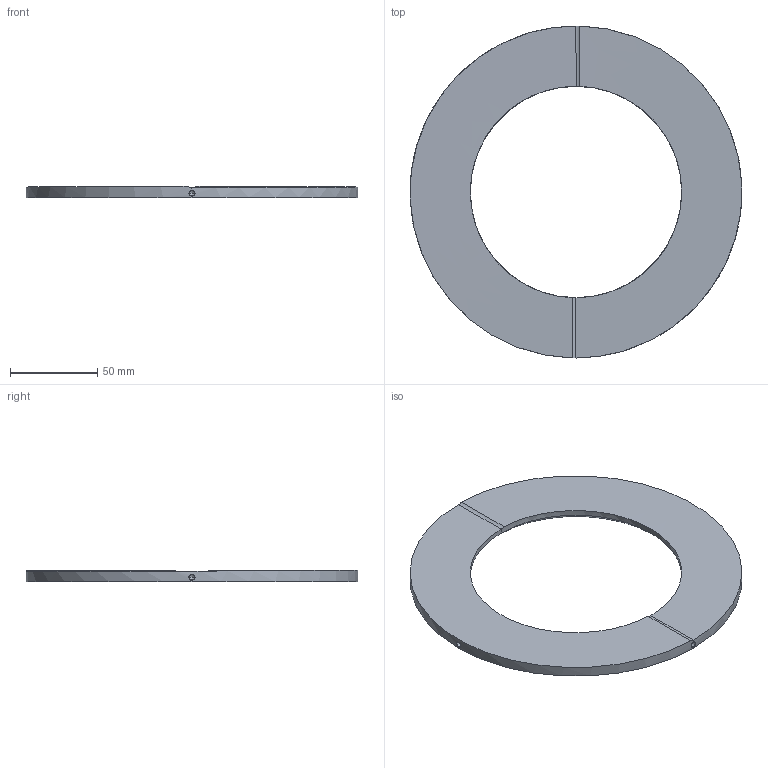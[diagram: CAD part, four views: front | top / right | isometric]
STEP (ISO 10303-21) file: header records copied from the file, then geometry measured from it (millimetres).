
FILE_DESCRIPTION((''),'2;1');
FILE_NAME('0_PLS_M120_','2021-10-29T',('TMarzahn'),(''),'CREO PARAMETRIC BY PTC INC, 2018220','CREO PARAMETRIC BY PTC INC, 2018220','');
FILE_SCHEMA(('CONFIG_CONTROL_DESIGN'));
Length unit declared in the file: millimetre
Products named in the file (1): 0_PLS_M120_
Bounding box: 190 x 190 x 6.34 mm (x, y, z)
Volume: 99100 mm3; surface area: 39161.7 mm2
Topology: 1 solids, 1 shells, 35 faces, 86 edges, 46 vertices
Faces by surface type: bspline 35
Entity records: 1693 total; most frequent: CARTESIAN_POINT 981, ORIENTED_EDGE 156, DIRECTION 80, EDGE_CURVE 78, VERTEX_POINT 46, EDGE_LOOP 38, VECTOR 36, LINE 36
